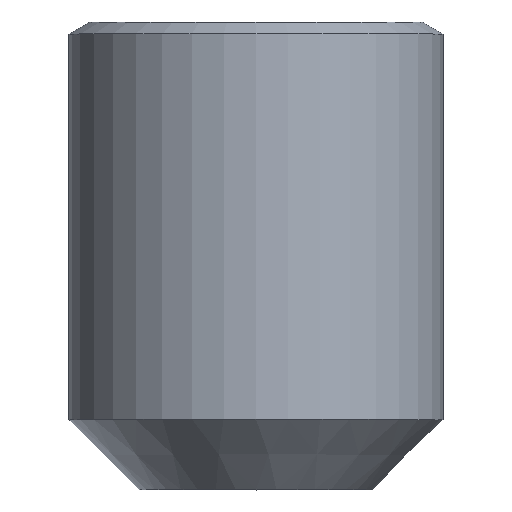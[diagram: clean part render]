
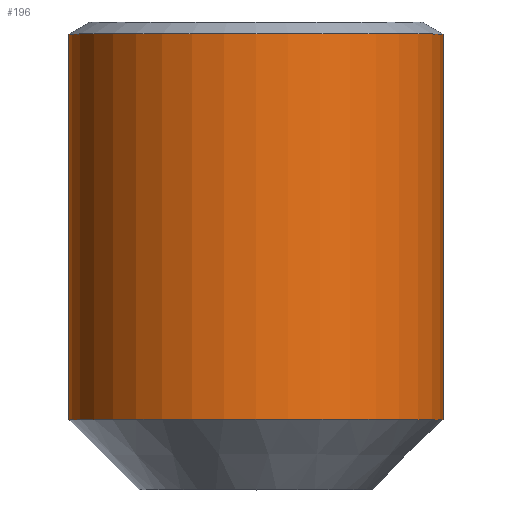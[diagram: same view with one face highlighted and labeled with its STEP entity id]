
A CAD part, top view. The second image highlights one B-rep face of the part: STEP entity #196.
In plain terms, the highlighted cylindrical face has radius 2 mm (diameter 4 mm), a full revolution.
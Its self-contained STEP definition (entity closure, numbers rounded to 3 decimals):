
#31=CYLINDRICAL_SURFACE('',#230,2.);
#33=FACE_OUTER_BOUND('',#45,.T.);
#45=EDGE_LOOP('',(#142,#143,#144,#145));
#58=LINE('',#303,#74);
#74=VECTOR('',#256,2.);
#90=CIRCLE('',#229,2.);
#91=CIRCLE('',#231,2.);
#94=VERTEX_POINT('',#297);
#95=VERTEX_POINT('',#301);
#113=EDGE_CURVE('',#94,#94,#90,.T.);
#114=EDGE_CURVE('',#95,#95,#91,.T.);
#115=EDGE_CURVE('',#95,#94,#58,.T.);
#142=ORIENTED_EDGE('',*,*,#114,.F.);
#143=ORIENTED_EDGE('',*,*,#115,.T.);
#144=ORIENTED_EDGE('',*,*,#113,.F.);
#145=ORIENTED_EDGE('',*,*,#115,.F.);
#196=ADVANCED_FACE('',(#33),#31,.T.);
#229=AXIS2_PLACEMENT_3D('',#299,#250,#251);
#230=AXIS2_PLACEMENT_3D('',#300,#252,#253);
#231=AXIS2_PLACEMENT_3D('',#302,#254,#255);
#250=DIRECTION('center_axis',(0.,-1.,0.));
#251=DIRECTION('ref_axis',(1.,0.,0.));
#252=DIRECTION('center_axis',(0.,1.,0.));
#253=DIRECTION('ref_axis',(1.,0.,0.));
#254=DIRECTION('center_axis',(0.,1.,0.));
#255=DIRECTION('ref_axis',(1.,0.,0.));
#256=DIRECTION('',(0.,-1.,0.));
#297=CARTESIAN_POINT('',(-2.,0.75,0.));
#299=CARTESIAN_POINT('Origin',(0.,0.75,0.));
#300=CARTESIAN_POINT('Origin',(0.,0.,0.));
#301=CARTESIAN_POINT('',(-2.,4.874,0.));
#302=CARTESIAN_POINT('Origin',(0.,4.874,0.));
#303=CARTESIAN_POINT('',(-2.,0.,0.));
